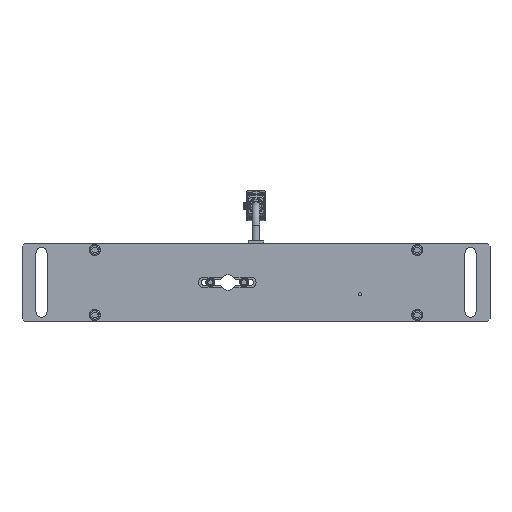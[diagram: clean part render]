
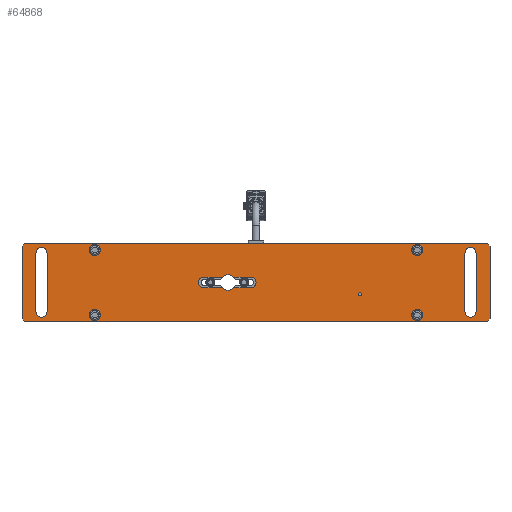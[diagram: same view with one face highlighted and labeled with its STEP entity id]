
A CAD part, front view. The second image highlights one B-rep face of the part: STEP entity #64868.
In plain terms, the highlighted planar face has unit normal (0, -1, 0) as drawn and (0, 0, 1) by its records, which use the part's own axes.
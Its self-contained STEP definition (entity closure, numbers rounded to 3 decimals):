
#1887=CIRCLE('',#67514,4.25);
#1888=CIRCLE('',#67515,4.25);
#1889=CIRCLE('',#67516,4.25);
#1890=CIRCLE('',#67517,4.25);
#1891=CIRCLE('',#67518,1.23);
#1892=CIRCLE('',#67519,6.);
#1893=CIRCLE('',#67520,4.15);
#1894=CIRCLE('',#67521,6.);
#1895=CIRCLE('',#67522,4.15);
#1896=CIRCLE('',#67523,4.35);
#1897=CIRCLE('',#67524,4.35);
#1898=CIRCLE('',#67525,4.35);
#1899=CIRCLE('',#67526,4.35);
#3742=ORIENTED_EDGE('',*,*,#18202,.F.);
#3743=ORIENTED_EDGE('',*,*,#18203,.F.);
#3744=ORIENTED_EDGE('',*,*,#18204,.F.);
#3745=ORIENTED_EDGE('',*,*,#18205,.F.);
#3746=ORIENTED_EDGE('',*,*,#18206,.F.);
#3747=ORIENTED_EDGE('',*,*,#18207,.F.);
#3748=ORIENTED_EDGE('',*,*,#18208,.F.);
#3749=ORIENTED_EDGE('',*,*,#18209,.F.);
#3750=ORIENTED_EDGE('',*,*,#18210,.T.);
#3751=ORIENTED_EDGE('',*,*,#18211,.F.);
#3752=ORIENTED_EDGE('',*,*,#18191,.T.);
#3753=ORIENTED_EDGE('',*,*,#18212,.T.);
#3754=ORIENTED_EDGE('',*,*,#18213,.T.);
#3755=ORIENTED_EDGE('',*,*,#18214,.F.);
#3756=ORIENTED_EDGE('',*,*,#18195,.T.);
#3757=ORIENTED_EDGE('',*,*,#18215,.T.);
#3758=ORIENTED_EDGE('',*,*,#18216,.T.);
#3759=ORIENTED_EDGE('',*,*,#18217,.T.);
#3760=ORIENTED_EDGE('',*,*,#18218,.T.);
#3761=ORIENTED_EDGE('',*,*,#18219,.T.);
#3762=ORIENTED_EDGE('',*,*,#18220,.T.);
#3763=ORIENTED_EDGE('',*,*,#18221,.T.);
#3764=ORIENTED_EDGE('',*,*,#18222,.T.);
#3765=ORIENTED_EDGE('',*,*,#18223,.T.);
#3766=ORIENTED_EDGE('',*,*,#18224,.T.);
#3767=ORIENTED_EDGE('',*,*,#18225,.T.);
#3768=ORIENTED_EDGE('',*,*,#18226,.T.);
#3769=ORIENTED_EDGE('',*,*,#18227,.T.);
#3770=ORIENTED_EDGE('',*,*,#18228,.T.);
#18191=EDGE_CURVE('',#25420,#25422,#30245,.T.);
#18195=EDGE_CURVE('',#25424,#25426,#30249,.T.);
#18202=EDGE_CURVE('',#25431,#25432,#1887,.T.);
#18203=EDGE_CURVE('',#25433,#25431,#30252,.T.);
#18204=EDGE_CURVE('',#25434,#25433,#1888,.T.);
#18205=EDGE_CURVE('',#25432,#25434,#30253,.T.);
#18206=EDGE_CURVE('',#25435,#25436,#1889,.T.);
#18207=EDGE_CURVE('',#25437,#25435,#30254,.T.);
#18208=EDGE_CURVE('',#25438,#25437,#1890,.T.);
#18209=EDGE_CURVE('',#25436,#25438,#30255,.T.);
#18210=EDGE_CURVE('',#25439,#25439,#1891,.T.);
#18211=EDGE_CURVE('',#25420,#25440,#1892,.T.);
#18212=EDGE_CURVE('',#25422,#25441,#1893,.T.);
#18213=EDGE_CURVE('',#25441,#25442,#30256,.T.);
#18214=EDGE_CURVE('',#25424,#25442,#1894,.T.);
#18215=EDGE_CURVE('',#25426,#25443,#1895,.T.);
#18216=EDGE_CURVE('',#25443,#25440,#30257,.T.);
#18217=EDGE_CURVE('',#25444,#25445,#30258,.T.);
#18218=EDGE_CURVE('',#25445,#25446,#30259,.F.);
#18219=EDGE_CURVE('',#25446,#25447,#30260,.T.);
#18220=EDGE_CURVE('',#25447,#25448,#30261,.F.);
#18221=EDGE_CURVE('',#25448,#25449,#30262,.T.);
#18222=EDGE_CURVE('',#25449,#25450,#30263,.F.);
#18223=EDGE_CURVE('',#25450,#25451,#30264,.T.);
#18224=EDGE_CURVE('',#25451,#25444,#30265,.F.);
#18225=EDGE_CURVE('',#25452,#25452,#1896,.T.);
#18226=EDGE_CURVE('',#25453,#25453,#1897,.T.);
#18227=EDGE_CURVE('',#25454,#25454,#1898,.T.);
#18228=EDGE_CURVE('',#25455,#25455,#1899,.T.);
#25420=VERTEX_POINT('',#86087);
#25422=VERTEX_POINT('',#86091);
#25424=VERTEX_POINT('',#86096);
#25426=VERTEX_POINT('',#86100);
#25431=VERTEX_POINT('',#86115);
#25432=VERTEX_POINT('',#86116);
#25433=VERTEX_POINT('',#86118);
#25434=VERTEX_POINT('',#86120);
#25435=VERTEX_POINT('',#86123);
#25436=VERTEX_POINT('',#86124);
#25437=VERTEX_POINT('',#86126);
#25438=VERTEX_POINT('',#86128);
#25439=VERTEX_POINT('',#86131);
#25440=VERTEX_POINT('',#86133);
#25441=VERTEX_POINT('',#86135);
#25442=VERTEX_POINT('',#86137);
#25443=VERTEX_POINT('',#86140);
#25444=VERTEX_POINT('',#86143);
#25445=VERTEX_POINT('',#86144);
#25446=VERTEX_POINT('',#86146);
#25447=VERTEX_POINT('',#86148);
#25448=VERTEX_POINT('',#86150);
#25449=VERTEX_POINT('',#86152);
#25450=VERTEX_POINT('',#86154);
#25451=VERTEX_POINT('',#86156);
#25452=VERTEX_POINT('',#86159);
#25453=VERTEX_POINT('',#86161);
#25454=VERTEX_POINT('',#86163);
#25455=VERTEX_POINT('',#86165);
#30245=LINE('',#86092,#34917);
#30249=LINE('',#86101,#34921);
#30252=LINE('',#86117,#34924);
#30253=LINE('',#86121,#34925);
#30254=LINE('',#86125,#34926);
#30255=LINE('',#86129,#34927);
#30256=LINE('',#86136,#34928);
#30257=LINE('',#86141,#34929);
#30258=LINE('',#86142,#34930);
#30259=LINE('',#86145,#34931);
#30260=LINE('',#86147,#34932);
#30261=LINE('',#86149,#34933);
#30262=LINE('',#86151,#34934);
#30263=LINE('',#86153,#34935);
#30264=LINE('',#86155,#34936);
#30265=LINE('',#86157,#34937);
#34917=VECTOR('',#72152,1000.);
#34921=VECTOR('',#72158,1000.);
#34924=VECTOR('',#72175,1000.);
#34925=VECTOR('',#72178,1000.);
#34926=VECTOR('',#72181,1000.);
#34927=VECTOR('',#72184,1000.);
#34928=VECTOR('',#72191,1000.);
#34929=VECTOR('',#72196,1000.);
#34930=VECTOR('',#72197,1000.);
#34931=VECTOR('',#72198,1000.);
#34932=VECTOR('',#72199,1000.);
#34933=VECTOR('',#72200,1000.);
#34934=VECTOR('',#72201,1000.);
#34935=VECTOR('',#72202,1000.);
#34936=VECTOR('',#72203,1000.);
#34937=VECTOR('',#72204,1000.);
#39583=EDGE_LOOP('',(#3742,#3743,#3744,#3745));
#39584=EDGE_LOOP('',(#3746,#3747,#3748,#3749));
#39585=EDGE_LOOP('',(#3750));
#39586=EDGE_LOOP('',(#3751,#3752,#3753,#3754,#3755,#3756,#3757,#3758));
#39587=EDGE_LOOP('',(#3759,#3760,#3761,#3762,#3763,#3764,#3765,#3766));
#39588=EDGE_LOOP('',(#3767));
#39589=EDGE_LOOP('',(#3768));
#39590=EDGE_LOOP('',(#3769));
#39591=EDGE_LOOP('',(#3770));
#42399=FACE_BOUND('',#39583,.T.);
#42400=FACE_BOUND('',#39584,.T.);
#42401=FACE_BOUND('',#39585,.T.);
#42402=FACE_BOUND('',#39586,.T.);
#42403=FACE_BOUND('',#39587,.T.);
#42404=FACE_BOUND('',#39588,.T.);
#42405=FACE_BOUND('',#39589,.T.);
#42406=FACE_BOUND('',#39590,.T.);
#42407=FACE_BOUND('',#39591,.T.);
#45215=PLANE('',#67513);
#64868=ADVANCED_FACE('',(#42399,#42400,#42401,#42402,#42403,#42404,#42405,
#42406,#42407),#45215,.T.);
#67513=AXIS2_PLACEMENT_3D('',#86113,#72171,#72172);
#67514=AXIS2_PLACEMENT_3D('',#86114,#72173,#72174);
#67515=AXIS2_PLACEMENT_3D('',#86119,#72176,#72177);
#67516=AXIS2_PLACEMENT_3D('',#86122,#72179,#72180);
#67517=AXIS2_PLACEMENT_3D('',#86127,#72182,#72183);
#67518=AXIS2_PLACEMENT_3D('',#86130,#72185,#72186);
#67519=AXIS2_PLACEMENT_3D('',#86132,#72187,#72188);
#67520=AXIS2_PLACEMENT_3D('',#86134,#72189,#72190);
#67521=AXIS2_PLACEMENT_3D('',#86138,#72192,#72193);
#67522=AXIS2_PLACEMENT_3D('',#86139,#72194,#72195);
#67523=AXIS2_PLACEMENT_3D('',#86158,#72205,#72206);
#67524=AXIS2_PLACEMENT_3D('',#86160,#72207,#72208);
#67525=AXIS2_PLACEMENT_3D('',#86162,#72209,#72210);
#67526=AXIS2_PLACEMENT_3D('',#86164,#72211,#72212);
#72152=DIRECTION('',(1.,0.,0.));
#72158=DIRECTION('',(-1.,0.,0.));
#72171=DIRECTION('',(0.,0.,1.));
#72172=DIRECTION('',(1.,0.,0.));
#72173=DIRECTION('',(0.,0.,1.));
#72174=DIRECTION('',(1.,0.,0.));
#72175=DIRECTION('',(0.,1.,0.));
#72176=DIRECTION('',(0.,0.,1.));
#72177=DIRECTION('',(-1.,0.,0.));
#72178=DIRECTION('',(0.,-1.,0.));
#72179=DIRECTION('',(0.,0.,1.));
#72180=DIRECTION('',(0.,-1.,0.));
#72181=DIRECTION('',(0.,1.,0.));
#72182=DIRECTION('',(0.,0.,1.));
#72183=DIRECTION('',(-1.,0.,0.));
#72184=DIRECTION('',(0.,-1.,0.));
#72185=DIRECTION('',(0.,0.,-1.));
#72186=DIRECTION('',(0.,-1.,0.));
#72187=DIRECTION('',(0.,0.,1.));
#72188=DIRECTION('',(1.,0.,0.));
#72189=DIRECTION('',(0.,0.,-1.));
#72190=DIRECTION('',(-1.,0.,0.));
#72191=DIRECTION('',(-1.,0.,0.));
#72192=DIRECTION('',(0.,0.,1.));
#72193=DIRECTION('',(1.,0.,0.));
#72194=DIRECTION('',(0.,0.,-1.));
#72195=DIRECTION('',(1.,0.,0.));
#72196=DIRECTION('',(1.,0.,0.));
#72197=DIRECTION('',(1.,0.,0.));
#72198=DIRECTION('',(-0.707,-0.707,0.));
#72199=DIRECTION('',(0.,1.,0.));
#72200=DIRECTION('',(0.707,-0.707,0.));
#72201=DIRECTION('',(-1.,0.,0.));
#72202=DIRECTION('',(0.707,0.707,0.));
#72203=DIRECTION('',(0.,-1.,0.));
#72204=DIRECTION('',(-0.707,0.707,0.));
#72205=DIRECTION('',(0.,0.,-1.));
#72206=DIRECTION('',(0.,-1.,0.));
#72207=DIRECTION('',(0.,0.,-1.));
#72208=DIRECTION('',(0.,-1.,0.));
#72209=DIRECTION('',(0.,0.,-1.));
#72210=DIRECTION('',(0.,-1.,0.));
#72211=DIRECTION('',(0.,0.,-1.));
#72212=DIRECTION('',(0.,-1.,0.));
#86087=CARTESIAN_POINT('',(25.833,4.15,0.));
#86091=CARTESIAN_POINT('',(40.1,4.15,0.));
#86092=CARTESIAN_POINT('',(4.1,4.15,0.));
#86096=CARTESIAN_POINT('',(17.167,-4.15,0.));
#86100=CARTESIAN_POINT('',(4.1,-4.15,0.));
#86101=CARTESIAN_POINT('',(40.1,-4.15,0.));
#86113=CARTESIAN_POINT('',(-180.,-30.,0.));
#86114=CARTESIAN_POINT('',(165.,22.5,0.));
#86115=CARTESIAN_POINT('',(169.25,22.5,0.));
#86116=CARTESIAN_POINT('',(160.75,22.5,0.));
#86117=CARTESIAN_POINT('',(169.25,-22.5,0.));
#86118=CARTESIAN_POINT('',(169.25,-22.5,0.));
#86119=CARTESIAN_POINT('',(165.,-22.5,0.));
#86120=CARTESIAN_POINT('',(160.75,-22.5,0.));
#86121=CARTESIAN_POINT('',(160.75,22.5,0.));
#86122=CARTESIAN_POINT('',(-165.,22.5,0.));
#86123=CARTESIAN_POINT('',(-160.75,22.5,0.));
#86124=CARTESIAN_POINT('',(-169.25,22.5,0.));
#86125=CARTESIAN_POINT('',(-160.75,-22.5,0.));
#86126=CARTESIAN_POINT('',(-160.75,-22.5,0.));
#86127=CARTESIAN_POINT('',(-165.,-22.5,0.));
#86128=CARTESIAN_POINT('',(-169.25,-22.5,0.));
#86129=CARTESIAN_POINT('',(-169.25,22.5,0.));
#86130=CARTESIAN_POINT('',(-80.,9.,0.));
#86131=CARTESIAN_POINT('',(-80.,7.771,0.));
#86132=CARTESIAN_POINT('',(21.5,0.,0.));
#86133=CARTESIAN_POINT('',(17.167,4.15,0.));
#86134=CARTESIAN_POINT('',(40.1,0.,0.));
#86135=CARTESIAN_POINT('',(40.1,-4.15,0.));
#86136=CARTESIAN_POINT('',(40.1,-4.15,0.));
#86137=CARTESIAN_POINT('',(25.833,-4.15,0.));
#86138=CARTESIAN_POINT('',(21.5,0.,0.));
#86139=CARTESIAN_POINT('',(4.1,0.,0.));
#86140=CARTESIAN_POINT('',(4.1,4.15,0.));
#86141=CARTESIAN_POINT('',(4.1,4.15,0.));
#86142=CARTESIAN_POINT('',(-180.,-30.,0.));
#86143=CARTESIAN_POINT('',(-178.,-30.,0.));
#86144=CARTESIAN_POINT('',(178.,-30.,0.));
#86145=CARTESIAN_POINT('',(-1.,-209.,0.));
#86146=CARTESIAN_POINT('',(180.,-28.,0.));
#86147=CARTESIAN_POINT('',(180.,-30.,0.));
#86148=CARTESIAN_POINT('',(180.,28.,0.));
#86149=CARTESIAN_POINT('',(29.,179.,0.));
#86150=CARTESIAN_POINT('',(178.,30.,0.));
#86151=CARTESIAN_POINT('',(180.,30.,0.));
#86152=CARTESIAN_POINT('',(-178.,30.,0.));
#86153=CARTESIAN_POINT('',(-209.,-1.,0.));
#86154=CARTESIAN_POINT('',(-180.,28.,0.));
#86155=CARTESIAN_POINT('',(-180.,30.,0.));
#86156=CARTESIAN_POINT('',(-180.,-28.,0.));
#86157=CARTESIAN_POINT('',(-179.,-29.,0.));
#86158=CARTESIAN_POINT('',(-124.,25.,0.));
#86159=CARTESIAN_POINT('',(-124.,20.65,0.));
#86160=CARTESIAN_POINT('',(124.,25.,0.));
#86161=CARTESIAN_POINT('',(124.,20.65,0.));
#86162=CARTESIAN_POINT('',(124.,-25.,0.));
#86163=CARTESIAN_POINT('',(124.,-29.35,0.));
#86164=CARTESIAN_POINT('',(-124.,-25.,0.));
#86165=CARTESIAN_POINT('',(-124.,-29.35,0.));
